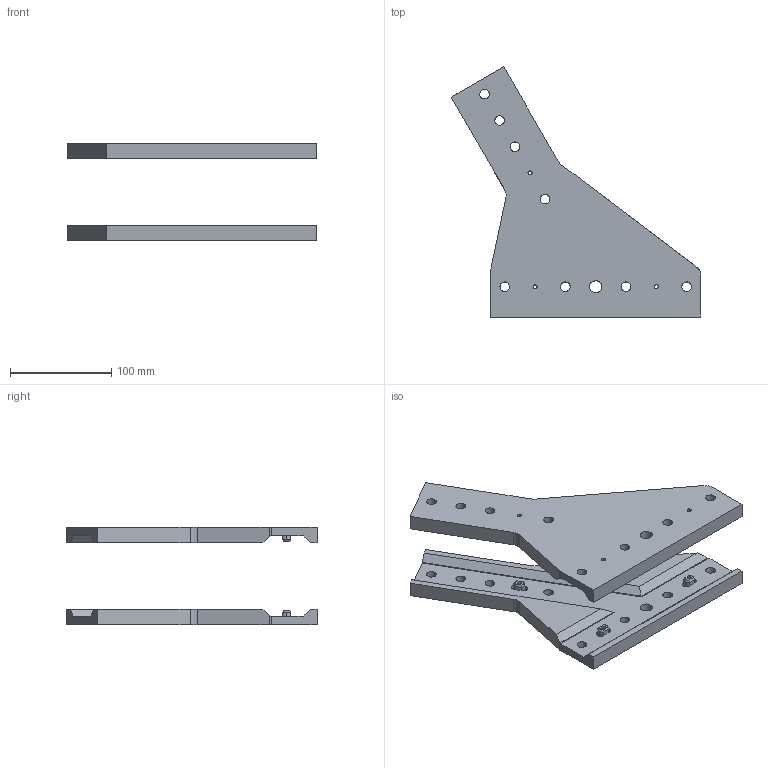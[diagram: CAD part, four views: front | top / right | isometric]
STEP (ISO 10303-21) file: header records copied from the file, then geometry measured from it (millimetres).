
FILE_DESCRIPTION(('STEP AP214'),'1');
FILE_NAME('EGT236_1700841_TVERB_VARIABEL_SW80_SW80.CATPart.stp','2015-09-14T13:14:59',('3D-Tool'),(' '),'Spatial InterOp 3D',' ',' ');
FILE_SCHEMA(('automotive_design'));
Length unit declared in the file: millimetre
Products named in the file (8): EGT236_1700841_TVERB_VARIABEL_SW80_SW80|EGT236_TVERB_VARIABEL_SW80_SW80|Bohrbearbeitung; EGT236_1700841_TVERB_VARIABEL_SW80_SW80|T-Verbindung_Variabel_SW80_SW80|Symmetry.1; 1; 2; 3; 4; 5; 6
Bounding box: 246.98 x 247.65 x 96 mm (x, y, z)
Volume: 625552.4 mm3; surface area: 149560.9 mm2
Topology: 8 solids, 8 shells, 272 faces, 722 edges, 472 vertices
Faces by surface type: cylinder 170, plane 90, cone 12
Entity records: 11141 total; most frequent: CARTESIAN_POINT 1642, DIRECTION 1586, ORIENTED_EDGE 1444, EDGE_CURVE 722, AXIS2_PLACEMENT_3D 620, VERTEX_POINT 472, LINE 346, VECTOR 346
